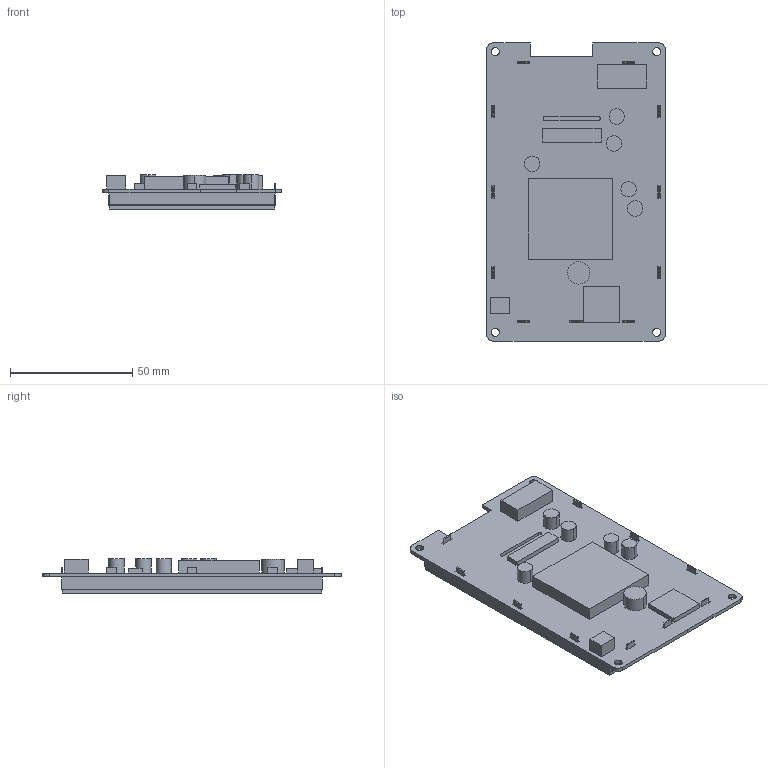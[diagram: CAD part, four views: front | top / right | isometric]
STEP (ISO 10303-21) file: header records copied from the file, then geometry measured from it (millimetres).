
FILE_DESCRIPTION((''),'2;1');
FILE_NAME('DMG80480K043_03WTR','2022-02-17T',('Administrator'),(''),'PRO/ENGINEER BY PARAMETRIC TECHNOLOGY CORPORATION, 2011310','PRO/ENGINEER BY PARAMETRIC TECHNOLOGY CORPORATION, 2011310','');
FILE_SCHEMA(('CONFIG_CONTROL_DESIGN','SHAPE_APPEARANCE_LAYERS_GROUPS'));
Length unit declared in the file: millimetre
Products named in the file (1): DMG80480K043_03WTR
Bounding box: 73.15 x 121.92 x 14 mm (x, y, z)
Volume: 55883.5 mm3; surface area: 51233.3 mm2
Topology: 1 solids, 2 shells, 207 faces, 610 edges, 392 vertices
Faces by surface type: plane 181, cylinder 26
Entity records: 8214 total; most frequent: ORIENTED_EDGE 1220, CARTESIAN_POINT 1209, DIRECTION 1076, EDGE_CURVE 610, VECTOR 558, LINE 558, VERTEX_POINT 392, AXIS2_PLACEMENT_3D 259
